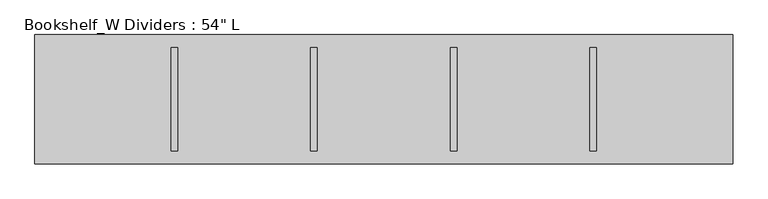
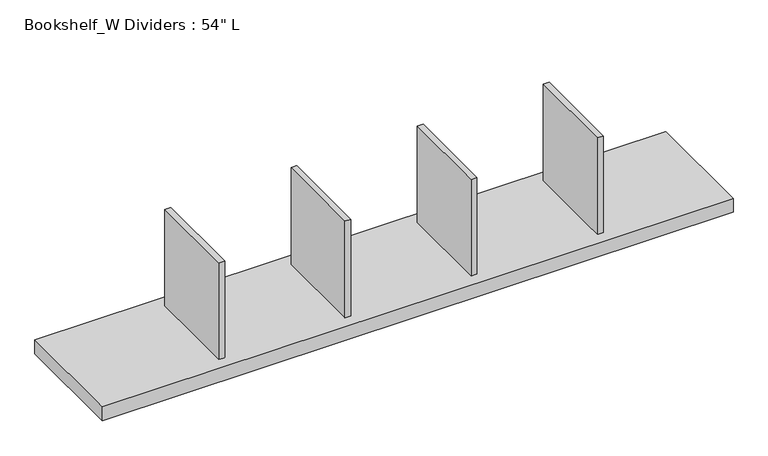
"""IFC4 building model written with IfcOpenShell, lengths in millimetres: furniture geometry."""

from ifc_helpers import new_model, si_unit, frame, origin, place, context, project, spatial, polyline, outline, extrude, source, transform, mapped, element, save


def furniture_93a4c50f(model_context):
    return source(origin(), model_context, "Body", "SweptSolid", [
        extrude(outline(polyline([(280.67, 228.6), (280.67, 25.4), (267.97, 25.4), (267.97, 228.6), (280.67, 228.6)])), frame((0.0, 0.0, 1555.75), z_axis=(0.0, 0.0, 1.0), x_axis=(1.0, 0.0, 0.0)), (0.0, 0.0, 1.0), 222.25),
        extrude(outline(polyline([(554.99, 228.6), (554.99, 25.4), (542.29, 25.4), (542.29, 228.6), (554.99, 228.6)])), frame((0.0, 0.0, 1555.75), z_axis=(0.0, 0.0, 1.0), x_axis=(1.0, 0.0, 0.0)), (0.0, 0.0, 1.0), 222.25),
        extrude(outline(polyline([(829.31, 228.6), (829.31, 25.4), (816.61, 25.4), (816.61, 228.6), (829.31, 228.6)])), frame((0.0, 0.0, 1555.75), z_axis=(0.0, 0.0, 1.0), x_axis=(1.0, 0.0, 0.0)), (0.0, 0.0, 1.0), 222.25),
        extrude(outline(polyline([(1103.63, 228.6), (1103.63, 25.4), (1090.93, 25.4), (1090.93, 228.6), (1103.63, 228.6)])), frame((0.0, 0.0, 1555.75), z_axis=(0.0, 0.0, 1.0), x_axis=(1.0, 0.0, 0.0)), (0.0, 0.0, 1.0), 222.25),
        extrude(outline(polyline([(1371.6, 254.0), (1371.6, 0.0), (0.0, 0.0), (0.0, 254.0), (1371.6, 254.0)])), frame((0.0, 0.0, 1524.0), z_axis=(0.0, 0.0, 1.0), x_axis=(1.0, 0.0, 0.0)), (0.0, 0.0, 1.0), 31.75),
    ])


if __name__ == "__main__":
    model = new_model("IFC4")
    model_context = context("Model", 3, world=origin())
    ifc_project = project(units=[si_unit("LENGTHUNIT", "METRE", prefix="MILLI")], contexts=[model_context])
    site = spatial("IfcSite", under=ifc_project)
    building = spatial("IfcBuilding", under=site)
    placement = place(None, origin())
    furniture_shape = furniture_93a4c50f(model_context)
    element("IfcFurniture", 1, ObjectType="Bookshelf_W Dividers : 54\" L", at=placement, inside=building, context=model_context, shape_type="MappedRepresentation", body=[
        mapped(furniture_shape, transform((0.0, 0.0, 0.0), x_axis=(1.0, 0.0, 0.0), y_axis=(0.0, 1.0, 0.0), z_axis=(0.0, 0.0, 1.0))),
    ])
    save(model, "model.ifc")
